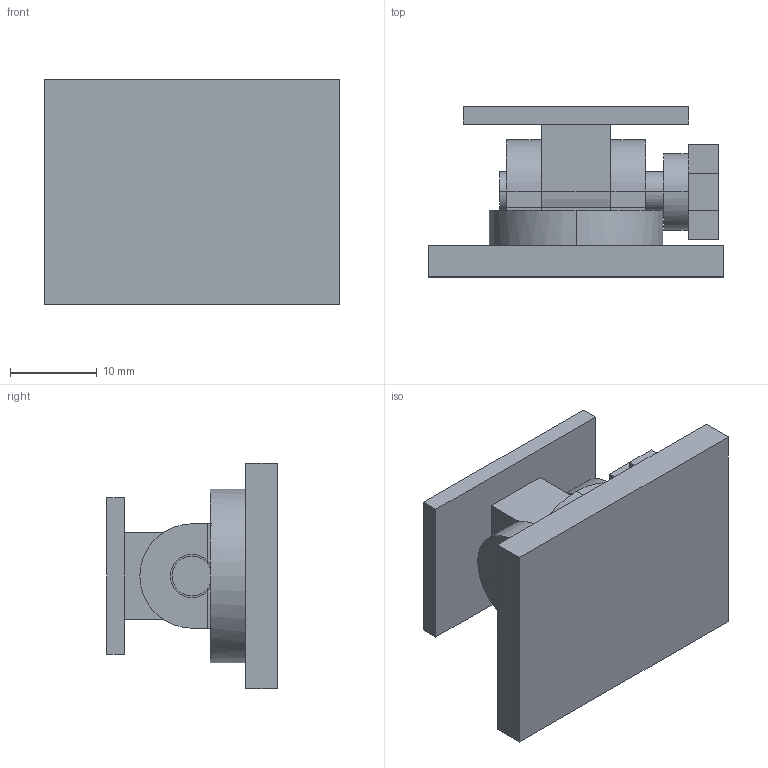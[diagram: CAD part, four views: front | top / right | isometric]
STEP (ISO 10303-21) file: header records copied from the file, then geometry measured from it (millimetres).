
FILE_DESCRIPTION(('Open CASCADE Model'),'2;1');
FILE_NAME('forearm-articulation.step','2026-11-14T14:32:01',('Author'),( 'Open CASCADE'),'Open CASCADE STEP processor 8.0','Open CASCADE 8.0' ,'Unknown');
FILE_SCHEMA(('AP242_MANAGED_MODEL_BASED_3D_ENGINEERING_MIM_LF {1 0 10303 442 1 1 4 }' ));
Length unit declared in the file: millimetre
Products named in the file (1): Forearm Articulation
Bounding box: 34 x 19.6 x 26 mm (x, y, z)
Volume: 7741 mm3; surface area: 5588 mm2
Topology: 6 solids, 6 shells, 82 faces, 188 edges, 120 vertices
Faces by surface type: plane 65, cylinder 17
Entity records: 4851 total; most frequent: CARTESIAN_POINT 977, DIRECTION 741, LINE 472, VECTOR 472, ORIENTED_EDGE 376, PCURVE 376, DEFINITIONAL_REPRESENTATION 376, EDGE_CURVE 188
